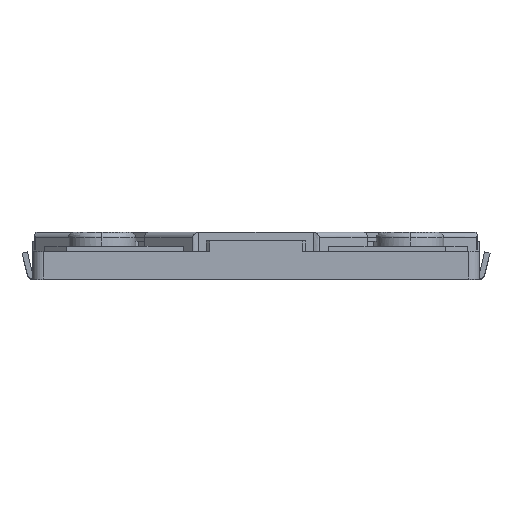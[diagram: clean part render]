
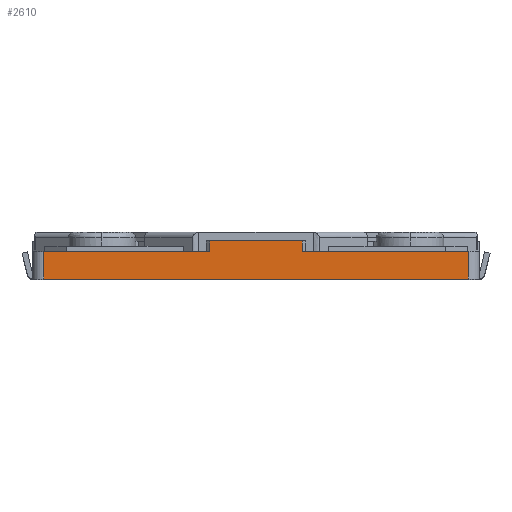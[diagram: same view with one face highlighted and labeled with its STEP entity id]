
A CAD part, top view. The second image highlights one B-rep face of the part: STEP entity #2610.
In plain terms, the highlighted planar face has unit normal (0, 0, 1).
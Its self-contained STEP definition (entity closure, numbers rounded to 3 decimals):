
#500 = VECTOR ( 'NONE', #5756, 1000. ) ;
#1077 = EDGE_LOOP ( 'NONE', ( #2285, #2254, #2263, #2258, #2282, #2281, #2290, #2286 ) ) ;
#1328 = VECTOR ( 'NONE', #5763, 1000. ) ;
#1542 = AXIS2_PLACEMENT_3D ( 'NONE', #5620, #5633, #5634 ) ;
#2254 = ORIENTED_EDGE ( 'NONE', *, *, #2504, .F. ) ;
#2258 = ORIENTED_EDGE ( 'NONE', *, *, #2655, .F. ) ;
#2263 = ORIENTED_EDGE ( 'NONE', *, *, #2632, .F. ) ;
#2281 = ORIENTED_EDGE ( 'NONE', *, *, #2659, .F. ) ;
#2282 = ORIENTED_EDGE ( 'NONE', *, *, #2658, .T. ) ;
#2285 = ORIENTED_EDGE ( 'NONE', *, *, #2507, .F. ) ;
#2286 = ORIENTED_EDGE ( 'NONE', *, *, #2509, .F. ) ;
#2290 = ORIENTED_EDGE ( 'NONE', *, *, #2520, .F. ) ;
#2422 = VECTOR ( 'NONE', #5704, 1000. ) ;
#2504 = EDGE_CURVE ( 'NONE', #4187, #4205, #3471, .T. ) ;
#2507 = EDGE_CURVE ( 'NONE', #4205, #4159, #3474, .T. ) ;
#2509 = EDGE_CURVE ( 'NONE', #4159, #4150, #3476, .T. ) ;
#2520 = EDGE_CURVE ( 'NONE', #4150, #4136, #3485, .T. ) ;
#2610 = ADVANCED_FACE ( 'NONE', ( #3572 ), #5619, .F. ) ;
#2632 = EDGE_CURVE ( 'NONE', #4297, #4187, #3609, .T. ) ;
#2655 = EDGE_CURVE ( 'NONE', #4333, #4297, #3626, .T. ) ;
#2658 = EDGE_CURVE ( 'NONE', #4333, #4299, #3628, .T. ) ;
#2659 = EDGE_CURVE ( 'NONE', #4136, #4299, #3629, .T. ) ;
#3471 = LINE ( 'NONE', #5325, #3913 ) ;
#3474 = LINE ( 'NONE', #5331, #3873 ) ;
#3476 = LINE ( 'NONE', #5335, #3898 ) ;
#3485 = LINE ( 'NONE', #5359, #8001 ) ;
#3572 = FACE_OUTER_BOUND ( 'NONE', #1077, .T. ) ;
#3609 = LINE ( 'NONE', #5703, #2422 ) ;
#3626 = LINE ( 'NONE', #5755, #500 ) ;
#3628 = LINE ( 'NONE', #5762, #1328 ) ;
#3629 = LINE ( 'NONE', #5764, #6826 ) ;
#3873 = VECTOR ( 'NONE', #5332, 1000. ) ;
#3898 = VECTOR ( 'NONE', #5336, 1000. ) ;
#3913 = VECTOR ( 'NONE', #5326, 1000. ) ;
#4136 = VERTEX_POINT ( 'NONE', #6649 ) ;
#4150 = VERTEX_POINT ( 'NONE', #6665 ) ;
#4159 = VERTEX_POINT ( 'NONE', #6676 ) ;
#4187 = VERTEX_POINT ( 'NONE', #6708 ) ;
#4205 = VERTEX_POINT ( 'NONE', #6730 ) ;
#4297 = VERTEX_POINT ( 'NONE', #7193 ) ;
#4299 = VERTEX_POINT ( 'NONE', #7195 ) ;
#4333 = VERTEX_POINT ( 'NONE', #7224 ) ;
#5325 = CARTESIAN_POINT ( 'NONE',  ( -0.425, 0., 2.05 ) ) ;
#5326 = DIRECTION ( 'NONE',  ( 0., 1., 0. ) ) ;
#5331 = CARTESIAN_POINT ( 'NONE',  ( 1.95, 0.35, 2.05 ) ) ;
#5332 = DIRECTION ( 'NONE',  ( 1., 0., 0. ) ) ;
#5335 = CARTESIAN_POINT ( 'NONE',  ( 0.425, 0., 2.05 ) ) ;
#5336 = DIRECTION ( 'NONE',  ( 0., -1., 0. ) ) ;
#5359 = CARTESIAN_POINT ( 'NONE',  ( 1.95, 0.25, 2.05 ) ) ;
#5360 = DIRECTION ( 'NONE',  ( 1., 0., 0. ) ) ;
#5619 = PLANE ( 'NONE',  #1542 ) ;
#5620 = CARTESIAN_POINT ( 'NONE',  ( 1.95, 0., 2.05 ) ) ;
#5633 = DIRECTION ( 'NONE',  ( 0., 0., -1. ) ) ;
#5634 = DIRECTION ( 'NONE',  ( -1., 0., 0. ) ) ;
#5703 = CARTESIAN_POINT ( 'NONE',  ( 1.95, 0.25, 2.05 ) ) ;
#5704 = DIRECTION ( 'NONE',  ( 1., 0., 0. ) ) ;
#5755 = CARTESIAN_POINT ( 'NONE',  ( -1.95, 0., 2.05 ) ) ;
#5756 = DIRECTION ( 'NONE',  ( 0., 1., 0. ) ) ;
#5762 = CARTESIAN_POINT ( 'NONE',  ( 2.05, 0., 2.05 ) ) ;
#5763 = DIRECTION ( 'NONE',  ( 1., 0., 0. ) ) ;
#5764 = CARTESIAN_POINT ( 'NONE',  ( 1.95, 0.25, 2.05 ) ) ;
#5765 = DIRECTION ( 'NONE',  ( 0., -1., 0. ) ) ;
#6649 = CARTESIAN_POINT ( 'NONE',  ( 1.95, 0.25, 2.05 ) ) ;
#6665 = CARTESIAN_POINT ( 'NONE',  ( 0.425, 0.25, 2.05 ) ) ;
#6676 = CARTESIAN_POINT ( 'NONE',  ( 0.425, 0.35, 2.05 ) ) ;
#6708 = CARTESIAN_POINT ( 'NONE',  ( -0.425, 0.25, 2.05 ) ) ;
#6730 = CARTESIAN_POINT ( 'NONE',  ( -0.425, 0.35, 2.05 ) ) ;
#6826 = VECTOR ( 'NONE', #5765, 1000. ) ;
#7193 = CARTESIAN_POINT ( 'NONE',  ( -1.95, 0.25, 2.05 ) ) ;
#7195 = CARTESIAN_POINT ( 'NONE',  ( 1.95, 0., 2.05 ) ) ;
#7224 = CARTESIAN_POINT ( 'NONE',  ( -1.95, 0., 2.05 ) ) ;
#8001 = VECTOR ( 'NONE', #5360, 1000. ) ;
